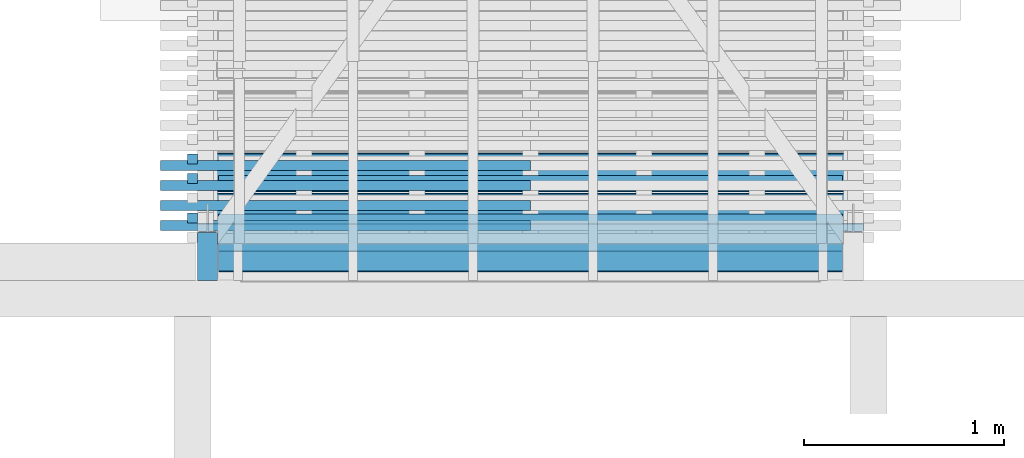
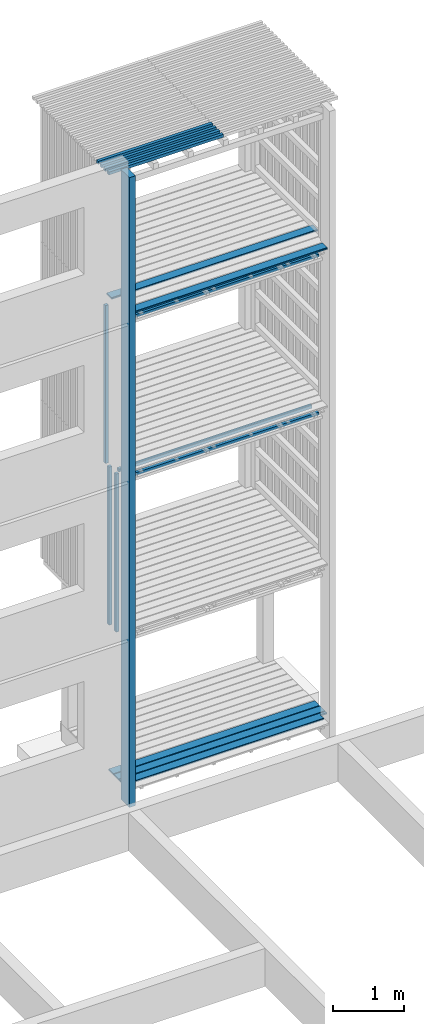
# One storey, part 110 of 182: 16 beams.
"""IFC2X3 building model written with IfcOpenShell, lengths in metres."""

from ifc_helpers import new_model, si_unit, frame, origin, place, context, project, spatial, faceted_brep, element, save


model = new_model("IFC2X3")

# Units and contexts
model_context = context("Model", 3, precision=1e-06, world=origin())
ifc_project = project(units=[si_unit("LENGTHUNIT", "METRE"), si_unit("PLANEANGLEUNIT", "RADIAN")], contexts=[model_context])

# Site, building, storey
site = spatial("IfcSite", under=ifc_project, CompositionType="ELEMENT")
building = spatial("IfcBuilding", under=site, CompositionType="ELEMENT")
storey = spatial("IfcBuildingStorey", under=building, Name="vs", CompositionType="ELEMENT", Elevation=-0.85)

# Beams
placement = place(None, origin())
beam_1_placement = place(placement, frame((56.24999999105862, 5.176952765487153, 5.167999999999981), z_axis=(0.0, 0.0, 1.0), x_axis=(-1.0, 0.0, 0.0)))
element("IfcBeam", 1, at=beam_1_placement, inside=storey, Name="Bardage", context=model_context, shape_type="Brep", body=[
    faceted_brep([(3.120000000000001, 0.025000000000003, -0.025), (3.120000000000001, -0.024999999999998, -0.025), (-3e-15, -0.024999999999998, -0.025), (-3e-15, 0.025000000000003, -0.025), (-3e-15, -0.024999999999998, -0.025), (3.120000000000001, -0.024999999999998, -0.025), (3.120000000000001, -0.024999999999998, 0.025000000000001), (-3e-15, -0.024999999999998, 0.025000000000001), (3.120000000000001, -0.024999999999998, -0.025), (3.120000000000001, 0.025000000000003, -0.025), (3.120000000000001, 0.025000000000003, 0.025000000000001), (3.120000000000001, -0.024999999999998, 0.025000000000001), (3.120000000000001, 0.025000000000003, 0.025000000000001), (3.120000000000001, 0.025000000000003, -0.025), (-3e-15, 0.025000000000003, -0.025), (-3e-15, 0.025000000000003, 0.025000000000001), (-3e-15, -0.024999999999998, 0.025000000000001), (3.120000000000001, -0.024999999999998, 0.025000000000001), (3.120000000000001, 0.025000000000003, 0.025000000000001), (-3e-15, 0.025000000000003, 0.025000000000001), (-3e-15, -0.024999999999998, -0.025), (-3e-15, -0.024999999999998, 0.025000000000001), (-3e-15, 0.025000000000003, 0.025000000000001), (-3e-15, 0.025000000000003, -0.025)], [[[0, 1, 2, 3]], [[4, 5, 6, 7]], [[8, 9, 10, 11]], [[12, 13, 14, 15]], [[16, 17, 18, 19]], [[20, 21, 22, 23]]]),
])
beam_2_placement = place(placement, frame((56.24999999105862, 5.176952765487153, 7.867999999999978), z_axis=(0.0, 0.0, 1.0), x_axis=(-1.0, 0.0, 0.0)))
element("IfcBeam", 2, at=beam_2_placement, inside=storey, Name="Bardage", context=model_context, shape_type="Brep", body=[
    faceted_brep([(3.120000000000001, 0.025000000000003, -0.025000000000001), (3.120000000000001, -0.024999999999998, -0.025000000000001), (-3e-15, -0.024999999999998, -0.025000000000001), (-3e-15, 0.025000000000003, -0.025000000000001), (-3e-15, -0.024999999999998, -0.025000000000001), (3.120000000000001, -0.024999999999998, -0.025000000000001), (3.120000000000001, -0.024999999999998, 0.024999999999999), (-3e-15, -0.024999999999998, 0.024999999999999), (3.120000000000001, -0.024999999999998, -0.025000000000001), (3.120000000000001, 0.025000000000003, -0.025000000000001), (3.120000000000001, 0.025000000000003, 0.024999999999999), (3.120000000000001, -0.024999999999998, 0.024999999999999), (3.120000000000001, 0.025000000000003, 0.024999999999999), (3.120000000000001, 0.025000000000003, -0.025000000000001), (-3e-15, 0.025000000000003, -0.025000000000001), (-3e-15, 0.025000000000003, 0.024999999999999), (-3e-15, -0.024999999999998, 0.024999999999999), (3.120000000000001, -0.024999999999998, 0.024999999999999), (3.120000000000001, 0.025000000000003, 0.024999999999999), (-3e-15, 0.025000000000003, 0.024999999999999), (-3e-15, -0.024999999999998, -0.025000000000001), (-3e-15, -0.024999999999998, 0.024999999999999), (-3e-15, 0.025000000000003, 0.024999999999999), (-3e-15, 0.025000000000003, -0.025000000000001)], [[[0, 1, 2, 3]], [[4, 5, 6, 7]], [[8, 9, 10, 11]], [[12, 13, 14, 15]], [[16, 17, 18, 19]], [[20, 21, 22, 23]]]),
])
beam_3_placement = place(placement, frame((56.24999999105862, 5.370702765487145, 5.167999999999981), z_axis=(0.0, 0.0, 1.0), x_axis=(-1.0, 0.0, 0.0)))
element("IfcBeam", 3, at=beam_3_placement, inside=storey, Name="Bardage", context=model_context, shape_type="Brep", body=[
    faceted_brep([(3.120000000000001, 0.024999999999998, -0.025), (3.120000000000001, -0.025000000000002, -0.025), (-3e-15, -0.025000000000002, -0.025), (-3e-15, 0.024999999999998, -0.025), (-3e-15, -0.025000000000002, -0.025), (3.120000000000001, -0.025000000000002, -0.025), (3.120000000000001, -0.025000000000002, 0.025000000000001), (-3e-15, -0.025000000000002, 0.025000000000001), (3.120000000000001, -0.025000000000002, -0.025), (3.120000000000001, 0.024999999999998, -0.025), (3.120000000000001, 0.024999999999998, 0.025000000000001), (3.120000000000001, -0.025000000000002, 0.025000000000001), (3.120000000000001, 0.024999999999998, 0.025000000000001), (3.120000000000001, 0.024999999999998, -0.025), (-3e-15, 0.024999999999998, -0.025), (-3e-15, 0.024999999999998, 0.025000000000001), (-3e-15, -0.025000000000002, 0.025000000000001), (3.120000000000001, -0.025000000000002, 0.025000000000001), (3.120000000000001, 0.024999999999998, 0.025000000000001), (-3e-15, 0.024999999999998, 0.025000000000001), (-3e-15, -0.025000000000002, -0.025), (-3e-15, -0.025000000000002, 0.025000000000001), (-3e-15, 0.024999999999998, 0.025000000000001), (-3e-15, 0.024999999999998, -0.025)], [[[0, 1, 2, 3]], [[4, 5, 6, 7]], [[8, 9, 10, 11]], [[12, 13, 14, 15]], [[16, 17, 18, 19]], [[20, 21, 22, 23]]]),
])
beam_4_placement = place(placement, frame((56.35499999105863, 5.434577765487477, 8.13349999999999), z_axis=(0.0, 0.0, 1.0), x_axis=(-1.0, -1e-15, 0.0)))
element("IfcBeam", 4, at=beam_4_placement, inside=storey, Name="Caillebotis", context=model_context, shape_type="Brep", body=[
    faceted_brep([(3.329999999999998, -0.072500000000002, -0.013500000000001), (3.329999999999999, 0.072500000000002, -0.013500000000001), (3.329999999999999, 0.072500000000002, 0.008499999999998), (3.329999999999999, 0.067499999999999, 0.013499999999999), (3.329999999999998, -0.067499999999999, 0.013499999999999), (3.329999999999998, -0.072500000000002, 0.0085), (0.0, -0.072499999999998, 0.0085), (0.0, -0.067499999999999, 0.013499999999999), (0.0, 0.067500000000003, 0.013499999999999), (0.0, 0.072500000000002, 0.008499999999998), (0.0, 0.072500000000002, -0.013500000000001), (0.0, -0.072499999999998, -0.013500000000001), (3.329999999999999, 0.072500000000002, 0.008499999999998), (3.329999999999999, 0.072500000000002, -0.013500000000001), (0.0, 0.072500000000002, -0.013500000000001), (0.0, 0.072500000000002, 0.008499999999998), (3.329999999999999, 0.067499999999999, 0.013499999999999), (3.329999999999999, 0.072500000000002, 0.008499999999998), (0.0, 0.072500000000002, 0.008499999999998), (0.0, 0.067500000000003, 0.013499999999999), (3.329999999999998, -0.067499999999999, 0.013499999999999), (3.329999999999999, 0.067499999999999, 0.013499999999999), (0.0, 0.067500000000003, 0.013499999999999), (0.0, -0.067499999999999, 0.013499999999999), (3.329999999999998, -0.072500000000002, 0.0085), (3.329999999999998, -0.067499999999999, 0.013499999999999), (0.0, -0.067499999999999, 0.013499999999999), (0.0, -0.072499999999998, 0.0085), (3.329999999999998, -0.072500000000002, -0.013500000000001), (3.329999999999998, -0.072500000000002, 0.0085), (0.0, -0.072499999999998, 0.0085), (0.0, -0.072499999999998, -0.013500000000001), (0.0, 0.072500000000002, -0.013500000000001), (3.329999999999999, 0.072500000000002, -0.013500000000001), (3.329999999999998, -0.072500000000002, -0.013500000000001), (0.0, -0.072499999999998, -0.013500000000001)], [[[0, 1, 2, 3, 4, 5]], [[6, 7, 8, 9, 10, 11]], [[12, 13, 14, 15]], [[16, 17, 18, 19]], [[20, 21, 22, 23]], [[24, 25, 26, 27]], [[28, 29, 30, 31]], [[32, 33, 34, 35]]]),
])
beam_5_placement = place(placement, frame((56.24999999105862, 4.984577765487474, 8.13349999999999), z_axis=(0.0, 0.0, 1.0), x_axis=(-1.0, 0.0, 0.0)))
element("IfcBeam", 5, at=beam_5_placement, inside=storey, Name="Caillebotis", context=model_context, shape_type="Brep", body=[
    faceted_brep([(-3e-15, -0.072500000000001, 0.008500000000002), (-3e-15, -0.067500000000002, 0.013499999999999), (-3e-15, 0.067499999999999, 0.013499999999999), (-3e-15, 0.072499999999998, 0.0085), (-3e-15, 0.072499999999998, -0.013500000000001), (-3e-15, -0.072500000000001, -0.013500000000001), (-3e-15, 0.072499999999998, -0.013500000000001), (-3e-15, 0.072499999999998, 0.0085), (3.120000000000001, 0.072499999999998, 0.008499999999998), (3.120000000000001, 0.072499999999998, -0.013500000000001), (-3e-15, -0.072500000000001, -0.013500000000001), (-3e-15, 0.072499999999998, -0.013500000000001), (3.120000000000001, 0.072499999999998, -0.013500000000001), (3.120000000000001, -0.072500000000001, -0.013500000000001), (-3e-15, -0.072500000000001, 0.008500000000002), (-3e-15, -0.072500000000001, -0.013500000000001), (3.120000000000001, -0.072500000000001, -0.013500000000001), (3.120000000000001, -0.072500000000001, 0.0085), (-3e-15, -0.067500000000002, 0.013499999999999), (-3e-15, -0.072500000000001, 0.008500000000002), (3.120000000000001, -0.072500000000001, 0.0085), (3.120000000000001, -0.067500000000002, 0.013499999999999), (-3e-15, 0.067499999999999, 0.013499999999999), (-3e-15, -0.067500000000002, 0.013499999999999), (3.120000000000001, -0.067500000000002, 0.013499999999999), (3.120000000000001, 0.067499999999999, 0.013499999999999), (-3e-15, 0.072499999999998, 0.0085), (-3e-15, 0.067499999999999, 0.013499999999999), (3.120000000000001, 0.067499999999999, 0.013499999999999), (3.120000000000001, 0.072499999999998, 0.008499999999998), (3.120000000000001, -0.072500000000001, -0.013500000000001), (3.120000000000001, 0.072499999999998, -0.013500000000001), (3.120000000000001, 0.072499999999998, 0.008499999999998), (3.120000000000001, 0.067499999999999, 0.013499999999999), (3.120000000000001, -0.067500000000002, 0.013499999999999), (3.120000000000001, -0.072500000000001, 0.0085)], [[[0, 1, 2, 3, 4, 5]], [[6, 7, 8, 9]], [[10, 11, 12, 13]], [[14, 15, 16, 17]], [[18, 19, 20, 21]], [[22, 23, 24, 25]], [[26, 27, 28, 29]], [[30, 31, 32, 33, 34, 35]]]),
])
beam_6_placement = place(placement, frame((56.35499999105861, 5.384577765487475, 0.033500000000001), z_axis=(0.0, 0.0, 1.0), x_axis=(-1.0, -1e-15, 0.0)))
element("IfcBeam", 6, at=beam_6_placement, inside=storey, Name="Caillebotis", context=model_context, shape_type="Brep", body=[
    faceted_brep([(3.329999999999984, -0.067500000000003, 0.0135), (3.329999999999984, -0.072500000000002, 0.008500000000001), (3.329999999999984, -0.072499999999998, -0.013500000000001), (3.329999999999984, 0.072499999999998, -0.013500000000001), (3.329999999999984, 0.072499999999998, 0.0085), (3.329999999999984, 0.067500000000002, 0.0135), (0.0, 0.067500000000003, 0.0135), (0.0, 0.072500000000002, 0.0085), (0.0, 0.072500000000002, -0.013500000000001), (0.0, -0.072499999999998, -0.013500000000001), (0.0, -0.072499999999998, 0.008500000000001), (0.0, -0.067499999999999, 0.0135), (3.329999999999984, -0.072499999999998, -0.013500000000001), (3.329999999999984, -0.072500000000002, 0.008500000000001), (0.0, -0.072499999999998, 0.008500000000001), (0.0, -0.072499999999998, -0.013500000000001), (3.329999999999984, 0.072499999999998, -0.013500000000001), (3.329999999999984, -0.072499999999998, -0.013500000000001), (0.0, -0.072499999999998, -0.013500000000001), (0.0, 0.072500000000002, -0.013500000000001), (3.329999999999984, 0.072499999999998, 0.0085), (3.329999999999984, 0.072499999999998, -0.013500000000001), (0.0, 0.072500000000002, -0.013500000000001), (0.0, 0.072500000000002, 0.0085), (3.329999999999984, 0.067500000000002, 0.0135), (3.329999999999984, 0.072499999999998, 0.0085), (0.0, 0.072500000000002, 0.0085), (0.0, 0.067500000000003, 0.0135), (3.329999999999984, -0.067500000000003, 0.0135), (3.329999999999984, 0.067500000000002, 0.0135), (0.0, 0.067500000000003, 0.0135), (0.0, -0.067499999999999, 0.0135), (0.0, -0.072499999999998, 0.008500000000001), (3.329999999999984, -0.072500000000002, 0.008500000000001), (3.329999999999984, -0.067500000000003, 0.0135), (0.0, -0.067499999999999, 0.0135)], [[[0, 1, 2, 3, 4, 5]], [[6, 7, 8, 9, 10, 11]], [[12, 13, 14, 15]], [[16, 17, 18, 19]], [[20, 21, 22, 23]], [[24, 25, 26, 27]], [[28, 29, 30, 31]], [[32, 33, 34, 35]]]),
])
beam_7_placement = place(placement, frame((56.35499999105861, 5.084577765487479, 0.033500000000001), z_axis=(0.0, 0.0, 1.0), x_axis=(-1.0, 0.0, 0.0)))
element("IfcBeam", 7, at=beam_7_placement, inside=storey, Name="Caillebotis", context=model_context, shape_type="Brep", body=[
    faceted_brep([(0.0, -0.072499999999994, -0.0135), (0.0, -0.072499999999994, 0.008500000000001), (0.0, -0.067499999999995, 0.0135), (0.0, -0.030499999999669, 0.0135), (0.0, -0.030499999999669, -0.0135), (3.329999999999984, -0.067499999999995, 0.0135), (3.329999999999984, -0.030499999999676, 0.0135), (3.224999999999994, -0.030499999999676, 0.0135), (3.224999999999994, 0.067500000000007, 0.0135), (0.104999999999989, 0.067500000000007, 0.0135), (0.104999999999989, -0.030499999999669, 0.0135), (0.0, -0.030499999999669, 0.0135), (0.0, -0.067499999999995, 0.0135), (0.104999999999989, -0.030499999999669, 0.0135), (0.104999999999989, 0.067500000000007, 0.0135), (0.104999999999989, 0.072500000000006, 0.0085), (0.104999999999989, 0.072500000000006, -0.0135), (0.104999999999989, -0.030499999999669, -0.0135), (0.104999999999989, 0.072500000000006, 0.0085), (0.104999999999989, 0.067500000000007, 0.0135), (3.224999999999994, 0.067500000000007, 0.0135), (3.224999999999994, 0.072500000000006, 0.0085), (0.104999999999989, 0.072500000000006, -0.0135), (0.104999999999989, 0.072500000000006, 0.0085), (3.224999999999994, 0.072500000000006, 0.0085), (3.224999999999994, 0.072500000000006, -0.013500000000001), (3.224999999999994, 0.072500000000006, -0.013500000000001), (3.224999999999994, 0.072500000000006, 0.0085), (3.224999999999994, 0.067500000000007, 0.0135), (3.224999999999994, -0.030499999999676, 0.0135), (3.224999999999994, -0.030499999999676, -0.013500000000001), (3.224999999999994, -0.030499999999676, -0.013500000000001), (3.224999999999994, -0.030499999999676, 0.0135), (3.329999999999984, -0.030499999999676, 0.0135), (3.329999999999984, -0.030499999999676, -0.013500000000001), (3.329999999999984, -0.072499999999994, 0.008500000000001), (3.329999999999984, -0.072499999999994, -0.013500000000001), (3.329999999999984, -0.030499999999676, -0.013500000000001), (3.329999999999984, -0.030499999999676, 0.0135), (3.329999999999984, -0.067499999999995, 0.0135), (3.329999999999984, -0.072499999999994, 0.008500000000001), (3.329999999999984, -0.067499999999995, 0.0135), (0.0, -0.067499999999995, 0.0135), (0.0, -0.072499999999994, 0.008500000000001), (3.329999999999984, -0.072499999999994, -0.013500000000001), (3.329999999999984, -0.072499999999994, 0.008500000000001), (0.0, -0.072499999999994, 0.008500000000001), (0.0, -0.072499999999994, -0.0135), (0.104999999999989, -0.030499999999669, -0.0135), (0.104999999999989, 0.072500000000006, -0.0135), (3.224999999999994, 0.072500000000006, -0.013500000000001), (3.224999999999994, -0.030499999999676, -0.013500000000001), (3.329999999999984, -0.030499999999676, -0.013500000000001), (3.329999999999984, -0.072499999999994, -0.013500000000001), (0.0, -0.072499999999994, -0.0135), (0.0, -0.030499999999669, -0.0135), (0.0, -0.030499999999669, 0.0135), (0.104999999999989, -0.030499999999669, 0.0135), (0.104999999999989, -0.030499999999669, -0.0135), (0.0, -0.030499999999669, -0.0135)], [[[0, 1, 2, 3, 4]], [[5, 6, 7, 8, 9, 10, 11, 12]], [[13, 14, 15, 16, 17]], [[18, 19, 20, 21]], [[22, 23, 24, 25]], [[26, 27, 28, 29, 30]], [[31, 32, 33, 34]], [[35, 36, 37, 38, 39]], [[40, 41, 42, 43]], [[44, 45, 46, 47]], [[48, 49, 50, 51, 52, 53, 54, 55]], [[56, 57, 58, 59]]]),
])
beam_8_placement = place(placement, frame((56.35499999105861, 5.234577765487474, 0.033500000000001), z_axis=(0.0, 0.0, 1.0), x_axis=(-1.0, 0.0, 0.0)))
element("IfcBeam", 8, at=beam_8_placement, inside=storey, Name="Caillebotis", context=model_context, shape_type="Brep", body=[
    faceted_brep([(3.329999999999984, -0.067500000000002, 0.0135), (3.329999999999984, -0.072499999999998, 0.008500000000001), (3.329999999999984, -0.072499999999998, -0.013500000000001), (3.329999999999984, 0.072499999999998, -0.013500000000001), (3.329999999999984, 0.072499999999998, 0.0085), (3.329999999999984, 0.067499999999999, 0.0135), (0.0, 0.067499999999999, 0.0135), (0.0, 0.072499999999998, 0.0085), (0.0, 0.072499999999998, -0.013500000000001), (0.0, -0.072500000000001, -0.013500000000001), (0.0, -0.072500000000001, 0.008500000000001), (0.0, -0.067500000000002, 0.0135), (3.329999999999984, -0.072499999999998, -0.013500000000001), (3.329999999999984, -0.072499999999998, 0.008500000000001), (0.0, -0.072500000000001, 0.008500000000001), (0.0, -0.072500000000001, -0.013500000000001), (3.329999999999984, 0.072499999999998, -0.013500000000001), (3.329999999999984, -0.072499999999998, -0.013500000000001), (0.0, -0.072500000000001, -0.013500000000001), (0.0, 0.072499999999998, -0.013500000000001), (3.329999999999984, 0.072499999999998, 0.0085), (3.329999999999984, 0.072499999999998, -0.013500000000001), (0.0, 0.072499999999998, -0.013500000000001), (0.0, 0.072499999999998, 0.0085), (3.329999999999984, 0.067499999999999, 0.0135), (3.329999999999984, 0.072499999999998, 0.0085), (0.0, 0.072499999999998, 0.0085), (0.0, 0.067499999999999, 0.0135), (3.329999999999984, -0.067500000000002, 0.0135), (3.329999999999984, 0.067499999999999, 0.0135), (0.0, 0.067499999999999, 0.0135), (0.0, -0.067500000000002, 0.0135), (0.0, -0.072500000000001, 0.008500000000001), (3.329999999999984, -0.072499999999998, 0.008500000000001), (3.329999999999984, -0.067500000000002, 0.0135), (0.0, -0.067500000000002, 0.0135)], [[[0, 1, 2, 3, 4, 5]], [[6, 7, 8, 9, 10, 11]], [[12, 13, 14, 15]], [[16, 17, 18, 19]], [[20, 21, 22, 23]], [[24, 25, 26, 27]], [[28, 29, 30, 31]], [[32, 33, 34, 35]]]),
])
beam_9_placement = place(placement, frame((54.689999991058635, 5.445077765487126, 10.47999999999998), z_axis=(0.0, 0.0, 1.0), x_axis=(-1.0, -2e-15, 0.0)))
element("IfcBeam", 9, at=beam_9_placement, inside=storey, Name="Bardage", context=model_context, shape_type="Brep", body=[
    faceted_brep([(1.850000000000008, -0.025000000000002, -0.024999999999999), (1.850000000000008, -0.025000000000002, 0.025000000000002), (-1e-15, -0.025000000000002, 0.025000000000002), (-1e-15, -0.025000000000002, -0.024999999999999), (1.850000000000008, -0.025000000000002, 0.025000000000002), (1.850000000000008, -0.025000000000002, -0.024999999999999), (1.850000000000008, 0.024999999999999, -0.024999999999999), (1.850000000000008, 0.024999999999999, 0.025000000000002), (1.850000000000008, 0.024999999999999, -0.024999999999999), (1.850000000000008, -0.025000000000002, -0.024999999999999), (-1e-15, -0.025000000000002, -0.024999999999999), (-1e-15, 0.025000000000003, -0.024999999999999), (1.850000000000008, 0.024999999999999, 0.025000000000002), (1.850000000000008, 0.024999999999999, -0.024999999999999), (-1e-15, 0.025000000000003, -0.024999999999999), (-1e-15, 0.025000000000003, 0.025000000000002), (-1e-15, -0.025000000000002, 0.025000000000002), (1.850000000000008, -0.025000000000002, 0.025000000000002), (1.850000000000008, 0.024999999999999, 0.025000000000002), (-1e-15, 0.025000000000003, 0.025000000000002), (-1e-15, -0.025000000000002, -0.024999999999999), (-1e-15, -0.025000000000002, 0.025000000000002), (-1e-15, 0.025000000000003, 0.025000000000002), (-1e-15, 0.025000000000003, -0.024999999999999)], [[[0, 1, 2, 3]], [[4, 5, 6, 7]], [[8, 9, 10, 11]], [[12, 13, 14, 15]], [[16, 17, 18, 19]], [[20, 21, 22, 23]]]),
])
beam_10_placement = place(placement, frame((52.999999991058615, 5.477805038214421, 5.274999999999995), z_axis=(1.0, 0.0, 0.0), x_axis=(0.0, 0.0, 1.0)))
element("IfcBeam", 10, at=beam_10_placement, inside=storey, Name="Bardage", context=model_context, shape_type="Brep", body=[
    faceted_brep([(2.699999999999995, 0.025000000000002, 0.025000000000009), (2.699999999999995, -0.024999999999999, 0.025000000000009), (2.699999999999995, -0.024999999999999, -0.025000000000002), (2.699999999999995, 0.025000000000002, -0.025000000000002), (1e-15, 0.025000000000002, 0.025000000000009), (2.699999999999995, 0.025000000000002, 0.025000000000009), (2.699999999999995, 0.025000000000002, -0.025000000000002), (1e-15, 0.025000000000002, -0.025000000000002), (1e-15, -0.024999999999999, 0.025000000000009), (1e-15, 0.025000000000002, 0.025000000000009), (1e-15, 0.025000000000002, -0.025000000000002), (1e-15, -0.024999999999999, -0.025000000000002), (1e-15, 0.025000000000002, 0.025000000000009), (1e-15, -0.024999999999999, 0.025000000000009), (2.699999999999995, -0.024999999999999, 0.025000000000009), (2.699999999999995, 0.025000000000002, 0.025000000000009), (1e-15, -0.024999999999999, 0.025000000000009), (1e-15, -0.024999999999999, -0.025000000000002), (2.699999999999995, -0.024999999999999, -0.025000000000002), (2.699999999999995, -0.024999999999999, 0.025000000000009), (1e-15, -0.024999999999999, -0.025000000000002), (1e-15, 0.025000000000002, -0.025000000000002), (2.699999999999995, 0.025000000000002, -0.025000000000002), (2.699999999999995, -0.024999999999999, -0.025000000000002)], [[[0, 1, 2, 3]], [[4, 5, 6, 7]], [[8, 9, 10, 11]], [[12, 13, 14, 15]], [[16, 17, 18, 19]], [[20, 21, 22, 23]]]),
])
beam_11_placement = place(placement, frame((52.999999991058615, 5.379623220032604, 2.575000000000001), z_axis=(1.0, 0.0, 0.0), x_axis=(0.0, 0.0, 1.0)))
element("IfcBeam", 11, at=beam_11_placement, inside=storey, Name="Bardage", context=model_context, shape_type="Brep", body=[
    faceted_brep([(2.699961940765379, -0.025000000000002, 0.025000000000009), (2.699961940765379, -0.025000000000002, -0.025000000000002), (2.699961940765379, 0.025000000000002, -0.025000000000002), (2.699961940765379, 0.025000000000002, 0.025000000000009), (0.0, -0.024999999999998, 0.025000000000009), (2.699961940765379, -0.025000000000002, 0.025000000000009), (2.699961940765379, 0.025000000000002, 0.025000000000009), (0.0, 0.025000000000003, 0.025000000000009), (0.0, -0.024999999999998, 0.025000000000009), (0.0, 0.025000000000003, 0.025000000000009), (0.0, 0.025000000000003, -0.025000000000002), (0.0, -0.024999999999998, -0.025000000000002), (0.0, -0.024999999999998, 0.025000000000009), (0.0, -0.024999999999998, -0.025000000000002), (2.699961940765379, -0.025000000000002, -0.025000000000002), (2.699961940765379, -0.025000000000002, 0.025000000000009), (0.0, -0.024999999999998, -0.025000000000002), (0.0, 0.025000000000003, -0.025000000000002), (2.699961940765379, 0.025000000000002, -0.025000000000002), (2.699961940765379, -0.025000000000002, -0.025000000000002), (0.0, 0.025000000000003, -0.025000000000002), (0.0, 0.025000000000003, 0.025000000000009), (2.699961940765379, 0.025000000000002, 0.025000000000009), (2.699961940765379, 0.025000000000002, -0.025000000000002)], [[[0, 1, 2, 3]], [[4, 5, 6, 7]], [[8, 9, 10, 11]], [[12, 13, 14, 15]], [[16, 17, 18, 19]], [[20, 21, 22, 23]]]),
])
beam_12_placement = place(placement, frame((54.689999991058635, 5.345077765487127, 10.47999999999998), z_axis=(0.0, 0.0, 1.0), x_axis=(-1.0, -2e-15, 0.0)))
element("IfcBeam", 12, at=beam_12_placement, inside=storey, Name="Bardage", context=model_context, shape_type="Brep", body=[
    faceted_brep([(1.850000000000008, -0.025000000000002, -0.024999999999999), (1.850000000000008, -0.025000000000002, 0.025000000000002), (-1e-15, -0.024999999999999, 0.025000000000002), (-1e-15, -0.024999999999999, -0.024999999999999), (1.850000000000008, -0.025000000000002, 0.025000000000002), (1.850000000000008, -0.025000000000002, -0.024999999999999), (1.850000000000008, 0.025000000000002, -0.024999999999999), (1.850000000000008, 0.025000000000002, 0.025000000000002), (1.850000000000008, 0.025000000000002, -0.024999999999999), (1.850000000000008, -0.025000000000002, -0.024999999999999), (-1e-15, -0.024999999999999, -0.024999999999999), (0.0, 0.025000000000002, -0.024999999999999), (1.850000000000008, 0.025000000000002, 0.025000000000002), (1.850000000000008, 0.025000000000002, -0.024999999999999), (0.0, 0.025000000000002, -0.024999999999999), (0.0, 0.025000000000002, 0.025000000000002), (-1e-15, -0.024999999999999, 0.025000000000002), (1.850000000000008, -0.025000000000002, 0.025000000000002), (1.850000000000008, 0.025000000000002, 0.025000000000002), (0.0, 0.025000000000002, 0.025000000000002), (-1e-15, -0.024999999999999, -0.024999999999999), (-1e-15, -0.024999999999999, 0.025000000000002), (0.0, 0.025000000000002, 0.025000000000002), (0.0, 0.025000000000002, -0.024999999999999)], [[[0, 1, 2, 3]], [[4, 5, 6, 7]], [[8, 9, 10, 11]], [[12, 13, 14, 15]], [[16, 17, 18, 19]], [[20, 21, 22, 23]]]),
])
beam_13_placement = place(placement, frame((54.689999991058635, 5.245077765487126, 10.47999999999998), z_axis=(0.0, 0.0, 1.0), x_axis=(-1.0, 0.0, 0.0)))
element("IfcBeam", 13, at=beam_13_placement, inside=storey, Name="Bardage", context=model_context, shape_type="Brep", body=[
    faceted_brep([(1.850000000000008, -0.024999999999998, -0.024999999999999), (1.850000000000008, -0.024999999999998, 0.025000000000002), (-1e-15, -0.024999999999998, 0.025000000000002), (-1e-15, -0.024999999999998, -0.024999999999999), (1.850000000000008, -0.024999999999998, 0.025000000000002), (1.850000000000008, -0.024999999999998, -0.024999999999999), (1.850000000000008, 0.025000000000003, -0.024999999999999), (1.850000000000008, 0.025000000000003, 0.025000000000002), (1.850000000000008, 0.025000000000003, -0.024999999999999), (1.850000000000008, -0.024999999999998, -0.024999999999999), (-1e-15, -0.024999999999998, -0.024999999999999), (-1e-15, 0.025000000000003, -0.024999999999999), (1.850000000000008, 0.025000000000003, 0.025000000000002), (1.850000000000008, 0.025000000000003, -0.024999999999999), (-1e-15, 0.025000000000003, -0.024999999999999), (-1e-15, 0.025000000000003, 0.025000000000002), (-1e-15, -0.024999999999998, 0.025000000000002), (1.850000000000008, -0.024999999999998, 0.025000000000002), (1.850000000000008, 0.025000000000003, 0.025000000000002), (-1e-15, 0.025000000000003, 0.025000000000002), (-1e-15, -0.024999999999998, -0.024999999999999), (-1e-15, -0.024999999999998, 0.025000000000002), (-1e-15, 0.025000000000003, 0.025000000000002), (-1e-15, 0.025000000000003, -0.024999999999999)], [[[0, 1, 2, 3]], [[4, 5, 6, 7]], [[8, 9, 10, 11]], [[12, 13, 14, 15]], [[16, 17, 18, 19]], [[20, 21, 22, 23]]]),
])
beam_14_placement = place(placement, frame((54.689999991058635, 5.145077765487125, 10.47999999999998), z_axis=(0.0, 0.0, 1.0), x_axis=(-1.0, 0.0, 0.0)))
element("IfcBeam", 14, at=beam_14_placement, inside=storey, Name="Bardage", context=model_context, shape_type="Brep", body=[
    faceted_brep([(1.850000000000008, -0.025000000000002, -0.024999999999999), (1.850000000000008, -0.025000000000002, 0.025000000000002), (-1e-15, -0.025000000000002, 0.025000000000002), (-1e-15, -0.025000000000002, -0.024999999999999), (1.850000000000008, -0.025000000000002, 0.025000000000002), (1.850000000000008, -0.025000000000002, -0.024999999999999), (1.850000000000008, 0.024999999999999, -0.024999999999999), (1.850000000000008, 0.024999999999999, 0.025000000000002), (1.850000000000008, 0.024999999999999, -0.024999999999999), (1.850000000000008, -0.025000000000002, -0.024999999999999), (-1e-15, -0.025000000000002, -0.024999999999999), (-1e-15, 0.024999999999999, -0.024999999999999), (1.850000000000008, 0.024999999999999, 0.025000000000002), (1.850000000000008, 0.024999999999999, -0.024999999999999), (-1e-15, 0.024999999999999, -0.024999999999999), (-1e-15, 0.024999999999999, 0.025000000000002), (-1e-15, -0.025000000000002, 0.025000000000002), (1.850000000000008, -0.025000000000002, 0.025000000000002), (1.850000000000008, 0.024999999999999, 0.025000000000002), (-1e-15, 0.024999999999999, 0.025000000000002), (-1e-15, -0.025000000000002, -0.024999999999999), (-1e-15, -0.025000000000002, 0.025000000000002), (-1e-15, 0.024999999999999, 0.025000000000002), (-1e-15, 0.024999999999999, -0.024999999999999)], [[[0, 1, 2, 3]], [[4, 5, 6, 7]], [[8, 9, 10, 11]], [[12, 13, 14, 15]], [[16, 17, 18, 19]], [[20, 21, 22, 23]]]),
])
beam_15_placement = place(placement, frame((52.999999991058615, 5.183259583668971, 2.575000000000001), z_axis=(1.0, 0.0, 0.0), x_axis=(0.0, 0.0, 1.0)))
element("IfcBeam", 15, at=beam_15_placement, inside=storey, Name="Bardage", context=model_context, shape_type="Brep", body=[
    faceted_brep([(2.699961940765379, -0.024999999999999, 0.025000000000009), (2.699961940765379, -0.024999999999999, -0.025000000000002), (2.699961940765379, 0.025000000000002, -0.025000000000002), (2.699961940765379, 0.025000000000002, 0.025000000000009), (0.0, -0.024999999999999, 0.025000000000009), (2.699961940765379, -0.024999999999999, 0.025000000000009), (2.699961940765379, 0.025000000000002, 0.025000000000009), (0.0, 0.025000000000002, 0.025000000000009), (0.0, -0.024999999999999, 0.025000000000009), (0.0, 0.025000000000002, 0.025000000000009), (0.0, 0.025000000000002, -0.025000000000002), (0.0, -0.024999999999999, -0.025000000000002), (0.0, -0.024999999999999, 0.025000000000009), (0.0, -0.024999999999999, -0.025000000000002), (2.699961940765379, -0.024999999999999, -0.025000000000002), (2.699961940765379, -0.024999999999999, 0.025000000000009), (0.0, -0.024999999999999, -0.025000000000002), (0.0, 0.025000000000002, -0.025000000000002), (2.699961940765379, 0.025000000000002, -0.025000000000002), (2.699961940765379, -0.024999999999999, -0.025000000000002), (0.0, 0.025000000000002, -0.025000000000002), (0.0, 0.025000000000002, 0.025000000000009), (2.699961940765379, 0.025000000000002, 0.025000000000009), (2.699961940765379, 0.025000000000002, -0.025000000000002)], [[[0, 1, 2, 3]], [[4, 5, 6, 7]], [[8, 9, 10, 11]], [[12, 13, 14, 15]], [[16, 17, 18, 19]], [[20, 21, 22, 23]]]),
])
beam_16_placement = place(placement, frame((53.074999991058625, 4.990077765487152, 10.494999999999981), z_axis=(0.0, 1.0, 0.0), x_axis=(0.0, 0.0, -1.0)))
element("IfcBeam", 16, at=beam_16_placement, inside=storey, Name="Poteau", context=model_context, shape_type="Brep", body=[
    faceted_brep([(0.0, -0.049999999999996, 0.120000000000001), (0.0, -0.049999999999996, -0.120000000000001), (10.754999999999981, -0.049999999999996, -0.120000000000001), (10.754999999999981, -0.049999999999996, 0.120000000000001), (10.754999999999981, -0.049999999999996, -0.120000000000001), (0.0, -0.049999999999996, -0.120000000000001), (0.0, 0.049999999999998, -0.120000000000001), (10.754999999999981, 0.049999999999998, -0.120000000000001), (10.754999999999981, -0.049999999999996, 0.120000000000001), (10.754999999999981, -0.049999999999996, -0.120000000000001), (10.754999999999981, 0.049999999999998, -0.120000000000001), (10.754999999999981, 0.049999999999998, 0.120000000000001), (0.0, -0.049999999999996, 0.120000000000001), (10.754999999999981, -0.049999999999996, 0.120000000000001), (10.754999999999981, 0.049999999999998, 0.120000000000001), (0.0, 0.049999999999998, 0.120000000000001), (10.754999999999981, 0.049999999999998, -0.120000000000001), (0.0, 0.049999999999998, -0.120000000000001), (0.0, 0.049999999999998, 0.120000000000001), (10.754999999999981, 0.049999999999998, 0.120000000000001), (0.0, 0.049999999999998, 0.120000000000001), (0.0, 0.049999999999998, -0.120000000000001), (0.0, -0.049999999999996, -0.120000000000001), (0.0, -0.049999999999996, 0.120000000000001)], [[[0, 1, 2, 3]], [[4, 5, 6, 7]], [[8, 9, 10, 11]], [[12, 13, 14, 15]], [[16, 17, 18, 19]], [[20, 21, 22, 23]]]),
])

save(model, "model.ifc")
